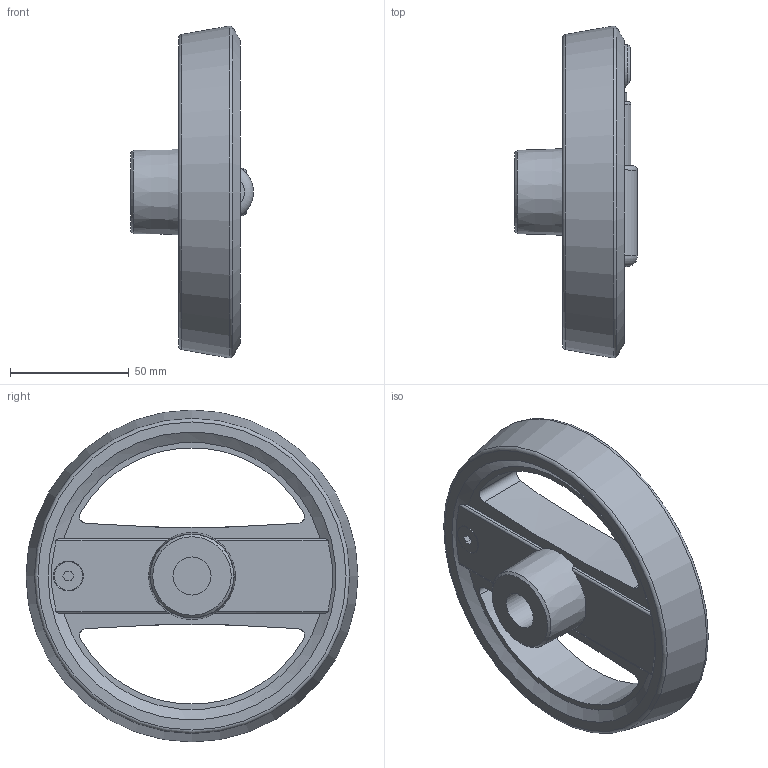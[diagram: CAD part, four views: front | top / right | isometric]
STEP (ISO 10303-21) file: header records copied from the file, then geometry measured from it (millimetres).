
FILE_DESCRIPTION( ( 'STEP AP203' ), '1' );
FILE_NAME( 'C:/Temp/Ganter_Step_05_03_2020/data/1_3/gn_924_7/gn_924_7_b/Handwheel with retractable handle GN 924.7-140-B16-R-SR (unactivated).stp', '2020-03-05T10:41:35', ( 'License CC BY-ND 4.0' ), ( 'CADENAS' ), ' ', 'PARTsolutions', ' ' );
FILE_SCHEMA( ( 'CONFIG_CONTROL_DESIGN' ) );
Length unit declared in the file: millimetre
Products named in the file (3): Handwheel with retractable handle GN 924.7-140-B16-R-SR (unactivated); _Umleggriff-Handrad GN 924.7-140-B16-R-SR-1; _Umleggriff-Handrad GN 924.7-140-B16-R-SR (0)-2
Assembly tree (2 placements, depth 2):
  Handwheel with retractable handle GN 924.7-140-B16-R-SR (unactivated)
    _Umleggriff-Handrad GN 924.7-140-B16-R-SR-1
    _Umleggriff-Handrad GN 924.7-140-B16-R-SR (0)-2
Bounding box: 51.7 x 139.68 x 139.68 mm (x, y, z)
Volume: 221750 mm3; surface area: 57747.4 mm2
Topology: 2 solids, 2 shells, 102 faces, 257 edges, 166 vertices
Faces by surface type: plane 44, cylinder 38, cone 10, torus 8, sphere 2
Full cylindrical faces by diameter (mm): 4 x4, 5 x1, 8 x1, 12 x1, 15 x1, 16 x1, 18.5 x1, 20 x1, 24 x1, 25 x1, 25.6 x1
Entity records: 3339 total; most frequent: CARTESIAN_POINT 961, DIRECTION 474, ORIENTED_EDGE 426, EDGE_CURVE 213, AXIS2_PLACEMENT_3D 198, VERTEX_POINT 158, EDGE_LOOP 150, FACE_OUTER_BOUND 123
